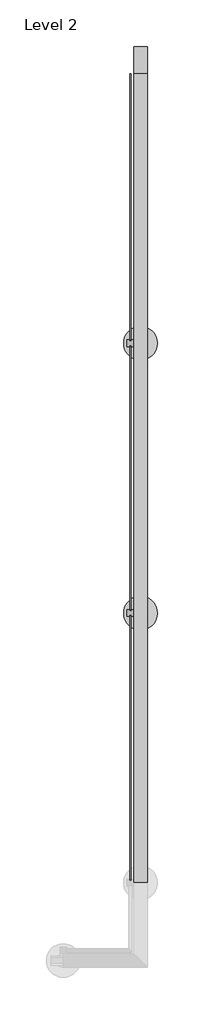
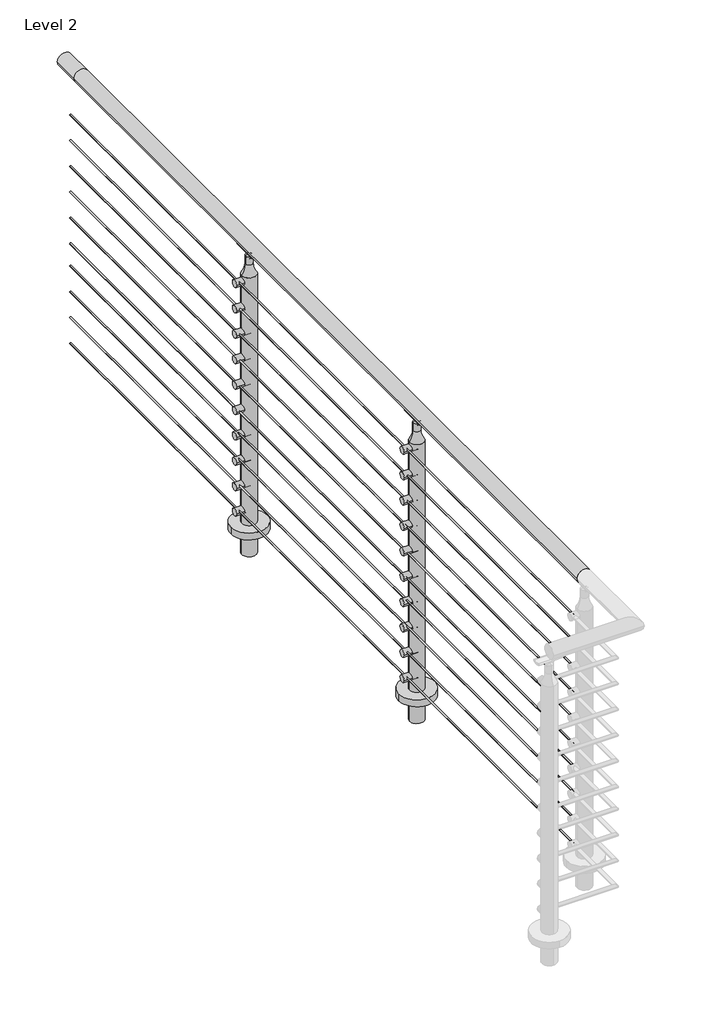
# One storey, part 9 of 21: 1 railing.
"""IFC4 building model written with IfcOpenShell, lengths in millimetres."""

from ifc_helpers import new_model, si_unit, point, frame, frame_2d, origin, place, context, project, spatial, polyline, circle_curve, ellipse_curve, trimmed, segment, composite_curve, outline, extrude, element, save
from ifc_brep_helpers import plane_surface, cylinder_surface, revolved_surface, advanced_brep

model = new_model("IFC4")

# Units and contexts
model_context = context("Model", 3, world=origin())
ifc_project = project(units=[si_unit("LENGTHUNIT", "METRE", prefix="MILLI")], contexts=[model_context])

# Site, building, storey
site = spatial("IfcSite", under=ifc_project)
building = spatial("IfcBuilding", under=site)
storey = spatial("IfcBuildingStorey", under=building, Name="Level 2", Elevation=3048.0)

# Railing
placement = place(None, origin())
element("IfcRailing", 1, ObjectType="VIVA-CIRCA-Multiline-Cable-Core Mount-Straight", at=placement, inside=storey, context=model_context, shape_type="SolidModel", body=[
    advanced_brep(
    [(71120.6810647, -68412.8034511, 4102.1), (71069.8810647, -68412.8034511, 4102.1), (71120.6810647, -65364.8034511, 4102.1), (71069.8810647, -65364.8034511, 4102.1), (71120.6810647, -65263.2034511, 4102.1), (71069.8810647, -65263.2034511, 4102.1)],
    [
        (0, 1, circle_curve(frame((71095.2810647, -68412.8034511, 4102.1), z_axis=(0.0, -1.0, 0.0), x_axis=(-1.0, 0.0, 0.0)), 25.4)),
        (1, 0, circle_curve(frame((71095.2810647, -68412.8034511, 4102.1), z_axis=(0.0, -1.0, 0.0), x_axis=(-1.0, 0.0, 0.0)), 25.4)),
        (0, 2),
        (2, 3, circle_curve(frame((71095.2810647, -65364.8034511, 4102.1), z_axis=(0.0, -1.0, 0.0), x_axis=(-1.0, 0.0, 0.0)), 25.4)),
        (3, 1),
        (3, 2, circle_curve(frame((71095.2810647, -65364.8034511, 4102.1), z_axis=(0.0, -1.0, 0.0), x_axis=(-1.0, 0.0, 0.0)), 25.4)),
        (4, 5, circle_curve(frame((71095.2810647, -65263.2034511, 4102.1), z_axis=(0.0, 1.0, 0.0), x_axis=(-1.0, 0.0, 0.0)), 25.4)),
        (5, 4, circle_curve(frame((71095.2810647, -65263.2034511, 4102.1), z_axis=(0.0, 1.0, 0.0), x_axis=(-1.0, 0.0, 0.0)), 25.4)),
        (2, 4),
        (5, 3),
    ],
    [
        plane_surface(frame((71095.2810647, -68412.8034511, 4127.5), z_axis=(0.0, -1.0, 0.0), x_axis=(0.0, 0.0, 1.0))),
        cylinder_surface(frame((71095.2810647, -68412.8034511, 4102.1), z_axis=(0.0, -1.0, 0.0), x_axis=(-1.0, 0.0, 0.0)), 25.4),
        plane_surface(frame((71095.2810647, -65263.2034511, 4127.5), z_axis=(0.0, 1.0, 0.0), x_axis=(0.0, 0.0, 1.0))),
        cylinder_surface(frame((71095.2810647, -65364.8034511, 4102.1), z_axis=(0.0, -1.0, 0.0), x_axis=(-1.0, 0.0, 0.0)), 25.4),
    ],
    [
        (0, [[1, 2]]),
        (1, [[-1, 3, 4, 5]]),
        (1, [[-2, -5, 6, -3]]),
        (2, [[7, 8]]),
        (3, [[-4, 9, -8, 10]]),
        (3, [[-6, -10, -7, -9]]),
    ],
),
    extrude(outline(composite_curve([segment(trimmed(circle_curve(frame_2d((3972.7124, 71057.1810647)), 2.3876), [point((3972.7124, 71054.7934647))], [point((3972.7124, 71059.5686647))], False, "CARTESIAN"), True, "CONTINUOUS"), segment(trimmed(circle_curve(frame_2d((3972.7124, 71057.1810647)), 2.3876), [point((3972.7124, 71059.5686647))], [point((3972.7124, 71054.7934647))], False, "CARTESIAN"), True, "CONTINUOUS")], self_intersect=False)), frame((0.0, -68412.8034511, 0.0), z_axis=(0.0, 1.0, 0.0), x_axis=(0.0, 0.0, 1.0)), (0.0, 0.0, 1.0), 3048.0),
    extrude(outline(composite_curve([segment(trimmed(circle_curve(frame_2d((3877.4624, 71057.1810647)), 2.3876), [point((3877.4624, 71054.7934647))], [point((3877.4624, 71059.5686647))], False, "CARTESIAN"), True, "CONTINUOUS"), segment(trimmed(circle_curve(frame_2d((3877.4624, 71057.1810647)), 2.3876), [point((3877.4624, 71059.5686647))], [point((3877.4624, 71054.7934647))], False, "CARTESIAN"), True, "CONTINUOUS")], self_intersect=False)), frame((0.0, -68412.8034511, 0.0), z_axis=(0.0, 1.0, 0.0), x_axis=(0.0, 0.0, 1.0)), (0.0, 0.0, 1.0), 3048.0),
    extrude(outline(composite_curve([segment(trimmed(circle_curve(frame_2d((3782.2124, 71057.1810647)), 2.3876), [point((3782.2124, 71054.7934647))], [point((3782.2124, 71059.5686647))], False, "CARTESIAN"), True, "CONTINUOUS"), segment(trimmed(circle_curve(frame_2d((3782.2124, 71057.1810647)), 2.3876), [point((3782.2124, 71059.5686647))], [point((3782.2124, 71054.7934647))], False, "CARTESIAN"), True, "CONTINUOUS")], self_intersect=False)), frame((0.0, -68412.8034511, 0.0), z_axis=(0.0, 1.0, 0.0), x_axis=(0.0, 0.0, 1.0)), (0.0, 0.0, 1.0), 3048.0),
    extrude(outline(composite_curve([segment(trimmed(circle_curve(frame_2d((3686.9624, 71057.1810647)), 2.3876), [point((3686.9624, 71054.7934647))], [point((3686.9624, 71059.5686647))], False, "CARTESIAN"), True, "CONTINUOUS"), segment(trimmed(circle_curve(frame_2d((3686.9624, 71057.1810647)), 2.3876), [point((3686.9624, 71059.5686647))], [point((3686.9624, 71054.7934647))], False, "CARTESIAN"), True, "CONTINUOUS")], self_intersect=False)), frame((0.0, -68412.8034511, 0.0), z_axis=(0.0, 1.0, 0.0), x_axis=(0.0, 0.0, 1.0)), (0.0, 0.0, 1.0), 3048.0),
    extrude(outline(composite_curve([segment(trimmed(circle_curve(frame_2d((3591.7124, 71057.1810647)), 2.3876), [point((3591.7124, 71054.7934647))], [point((3591.7124, 71059.5686647))], False, "CARTESIAN"), True, "CONTINUOUS"), segment(trimmed(circle_curve(frame_2d((3591.7124, 71057.1810647)), 2.3876), [point((3591.7124, 71059.5686647))], [point((3591.7124, 71054.7934647))], False, "CARTESIAN"), True, "CONTINUOUS")], self_intersect=False)), frame((0.0, -68412.8034511, 0.0), z_axis=(0.0, 1.0, 0.0), x_axis=(0.0, 0.0, 1.0)), (0.0, 0.0, 1.0), 3048.0),
    extrude(outline(composite_curve([segment(trimmed(circle_curve(frame_2d((3496.4624, 71057.1810647)), 2.3876), [point((3496.4624, 71054.7934647))], [point((3496.4624, 71059.5686647))], False, "CARTESIAN"), True, "CONTINUOUS"), segment(trimmed(circle_curve(frame_2d((3496.4624, 71057.1810647)), 2.3876), [point((3496.4624, 71059.5686647))], [point((3496.4624, 71054.7934647))], False, "CARTESIAN"), True, "CONTINUOUS")], self_intersect=False)), frame((0.0, -68412.8034511, 0.0), z_axis=(0.0, 1.0, 0.0), x_axis=(0.0, 0.0, 1.0)), (0.0, 0.0, 1.0), 3048.0),
    extrude(outline(composite_curve([segment(trimmed(circle_curve(frame_2d((3413.9124, 71057.1810647)), 2.3876), [point((3413.9124, 71054.7934647))], [point((3413.9124, 71059.5686647))], False, "CARTESIAN"), True, "CONTINUOUS"), segment(trimmed(circle_curve(frame_2d((3413.9124, 71057.1810647)), 2.3876), [point((3413.9124, 71059.5686647))], [point((3413.9124, 71054.7934647))], False, "CARTESIAN"), True, "CONTINUOUS")], self_intersect=False)), frame((0.0, -68412.8034511, 0.0), z_axis=(0.0, 1.0, 0.0), x_axis=(0.0, 0.0, 1.0)), (0.0, 0.0, 1.0), 3048.0),
    extrude(outline(composite_curve([segment(trimmed(circle_curve(frame_2d((3318.6624, 71057.1810647)), 2.3876), [point((3318.6624, 71054.7934647))], [point((3318.6624, 71059.5686647))], False, "CARTESIAN"), True, "CONTINUOUS"), segment(trimmed(circle_curve(frame_2d((3318.6624, 71057.1810647)), 2.3876), [point((3318.6624, 71059.5686647))], [point((3318.6624, 71054.7934647))], False, "CARTESIAN"), True, "CONTINUOUS")], self_intersect=False)), frame((0.0, -68412.8034511, 0.0), z_axis=(0.0, 1.0, 0.0), x_axis=(0.0, 0.0, 1.0)), (0.0, 0.0, 1.0), 3048.0),
    extrude(outline(composite_curve([segment(trimmed(circle_curve(frame_2d((3223.4124, 71057.1810647)), 2.3876), [point((3223.4124, 71054.7934647))], [point((3223.4124, 71059.5686647))], False, "CARTESIAN"), True, "CONTINUOUS"), segment(trimmed(circle_curve(frame_2d((3223.4124, 71057.1810647)), 2.3876), [point((3223.4124, 71059.5686647))], [point((3223.4124, 71054.7934647))], False, "CARTESIAN"), True, "CONTINUOUS")], self_intersect=False)), frame((0.0, -68412.8034511, 0.0), z_axis=(0.0, 1.0, 0.0), x_axis=(0.0, 0.0, 1.0)), (0.0, 0.0, 1.0), 3048.0),
    extrude(outline(composite_curve([segment(trimmed(circle_curve(frame_2d((3128.1624, 71057.1810647)), 2.3876), [point((3128.1624, 71054.7934647))], [point((3128.1624, 71059.5686647))], False, "CARTESIAN"), True, "CONTINUOUS"), segment(trimmed(circle_curve(frame_2d((3128.1624, 71057.1810647)), 2.3876), [point((3128.1624, 71059.5686647))], [point((3128.1624, 71054.7934647))], False, "CARTESIAN"), True, "CONTINUOUS")], self_intersect=False)), frame((0.0, -68412.8034511, 0.0), z_axis=(0.0, 1.0, 0.0), x_axis=(0.0, 0.0, 1.0)), (0.0, 0.0, 1.0), 3048.0),
    extrude(outline(composite_curve([segment(trimmed(circle_curve(frame_2d((71095.2810647, -66380.4065761)), 63.5), [point((71158.7810647, -66380.4065761))], [point((71031.7810647, -66380.4065761))], False, "CARTESIAN"), True, "CONTINUOUS"), segment(trimmed(circle_curve(frame_2d((71095.2810647, -66380.4065761)), 63.5), [point((71031.7810647, -66380.4065761))], [point((71158.7810647, -66380.4065761))], False, "CARTESIAN"), True, "CONTINUOUS")], self_intersect=False)), frame((0.0, 0.0, 3048.0), z_axis=(0.0, 0.0, 1.0), x_axis=(1.0, 0.0, 0.0)), (0.0, 0.0, 1.0), 25.4),
    extrude(outline(composite_curve([segment(trimmed(circle_curve(frame_2d((-66380.0097011, 3124.2)), 12.666458), [point((-66367.3432432, 3124.2))], [point((-66392.6761591, 3124.2))], False, "CARTESIAN"), True, "CONTINUOUS"), segment(trimmed(circle_curve(frame_2d((-66380.0097011, 3124.2)), 12.666458), [point((-66392.6761591, 3124.2))], [point((-66367.3432432, 3124.2))], False, "CARTESIAN"), True, "CONTINUOUS")], self_intersect=False)), frame((71044.4810647, 0.0, 0.0), z_axis=(1.0, 0.0, 0.0), x_axis=(0.0, 1.0, 0.0)), (0.0, 0.0, 1.0), 50.8),
    extrude(outline(composite_curve([segment(trimmed(circle_curve(frame_2d((-66380.0097011, 3218.0388889)), 12.666458), [point((-66367.3432432, 3218.0388889))], [point((-66392.6761591, 3218.0388889))], False, "CARTESIAN"), True, "CONTINUOUS"), segment(trimmed(circle_curve(frame_2d((-66380.0097011, 3218.0388889)), 12.666458), [point((-66392.6761591, 3218.0388889))], [point((-66367.3432432, 3218.0388889))], False, "CARTESIAN"), True, "CONTINUOUS")], self_intersect=False)), frame((71044.4810647, 0.0, 0.0), z_axis=(1.0, 0.0, 0.0), x_axis=(0.0, 1.0, 0.0)), (0.0, 0.0, 1.0), 50.8),
    extrude(outline(composite_curve([segment(trimmed(circle_curve(frame_2d((-66380.0097011, 3311.8777778)), 12.666458), [point((-66367.3432432, 3311.8777778))], [point((-66392.6761591, 3311.8777778))], False, "CARTESIAN"), True, "CONTINUOUS"), segment(trimmed(circle_curve(frame_2d((-66380.0097011, 3311.8777778)), 12.666458), [point((-66392.6761591, 3311.8777778))], [point((-66367.3432432, 3311.8777778))], False, "CARTESIAN"), True, "CONTINUOUS")], self_intersect=False)), frame((71044.4810647, 0.0, 0.0), z_axis=(1.0, 0.0, 0.0), x_axis=(0.0, 1.0, 0.0)), (0.0, 0.0, 1.0), 50.8),
    extrude(outline(composite_curve([segment(trimmed(circle_curve(frame_2d((-66380.0097011, 3405.7166667)), 12.666458), [point((-66367.3432432, 3405.7166667))], [point((-66392.6761591, 3405.7166667))], False, "CARTESIAN"), True, "CONTINUOUS"), segment(trimmed(circle_curve(frame_2d((-66380.0097011, 3405.7166667)), 12.666458), [point((-66392.6761591, 3405.7166667))], [point((-66367.3432432, 3405.7166667))], False, "CARTESIAN"), True, "CONTINUOUS")], self_intersect=False)), frame((71044.4810647, 0.0, 0.0), z_axis=(1.0, 0.0, 0.0), x_axis=(0.0, 1.0, 0.0)), (0.0, 0.0, 1.0), 50.8),
    extrude(outline(composite_curve([segment(trimmed(circle_curve(frame_2d((-66380.0097011, 3499.5555556)), 12.666458), [point((-66367.3432432, 3499.5555556))], [point((-66392.6761591, 3499.5555556))], False, "CARTESIAN"), True, "CONTINUOUS"), segment(trimmed(circle_curve(frame_2d((-66380.0097011, 3499.5555556)), 12.666458), [point((-66392.6761591, 3499.5555556))], [point((-66367.3432432, 3499.5555556))], False, "CARTESIAN"), True, "CONTINUOUS")], self_intersect=False)), frame((71044.4810647, 0.0, 0.0), z_axis=(1.0, 0.0, 0.0), x_axis=(0.0, 1.0, 0.0)), (0.0, 0.0, 1.0), 50.8),
    extrude(outline(composite_curve([segment(trimmed(circle_curve(frame_2d((-66380.0097011, 3593.3944444)), 12.666458), [point((-66367.3432432, 3593.3944444))], [point((-66392.6761591, 3593.3944444))], False, "CARTESIAN"), True, "CONTINUOUS"), segment(trimmed(circle_curve(frame_2d((-66380.0097011, 3593.3944444)), 12.666458), [point((-66392.6761591, 3593.3944444))], [point((-66367.3432432, 3593.3944444))], False, "CARTESIAN"), True, "CONTINUOUS")], self_intersect=False)), frame((71044.4810647, 0.0, 0.0), z_axis=(1.0, 0.0, 0.0), x_axis=(0.0, 1.0, 0.0)), (0.0, 0.0, 1.0), 50.8),
    extrude(outline(composite_curve([segment(trimmed(circle_curve(frame_2d((-66380.0097011, 3687.2333333)), 12.666458), [point((-66367.3432432, 3687.2333333))], [point((-66392.6761591, 3687.2333333))], False, "CARTESIAN"), True, "CONTINUOUS"), segment(trimmed(circle_curve(frame_2d((-66380.0097011, 3687.2333333)), 12.666458), [point((-66392.6761591, 3687.2333333))], [point((-66367.3432432, 3687.2333333))], False, "CARTESIAN"), True, "CONTINUOUS")], self_intersect=False)), frame((71044.4810647, 0.0, 0.0), z_axis=(1.0, 0.0, 0.0), x_axis=(0.0, 1.0, 0.0)), (0.0, 0.0, 1.0), 50.8),
    extrude(outline(composite_curve([segment(trimmed(circle_curve(frame_2d((-66380.0097011, 3781.0722222)), 12.666458), [point((-66367.3432432, 3781.0722222))], [point((-66392.6761591, 3781.0722222))], False, "CARTESIAN"), True, "CONTINUOUS"), segment(trimmed(circle_curve(frame_2d((-66380.0097011, 3781.0722222)), 12.666458), [point((-66392.6761591, 3781.0722222))], [point((-66367.3432432, 3781.0722222))], False, "CARTESIAN"), True, "CONTINUOUS")], self_intersect=False)), frame((71044.4810647, 0.0, 0.0), z_axis=(1.0, 0.0, 0.0), x_axis=(0.0, 1.0, 0.0)), (0.0, 0.0, 1.0), 50.8),
    extrude(outline(composite_curve([segment(trimmed(circle_curve(frame_2d((-66380.0097011, 3968.75)), 12.666458), [point((-66367.3432432, 3968.75))], [point((-66392.6761591, 3968.75))], False, "CARTESIAN"), True, "CONTINUOUS"), segment(trimmed(circle_curve(frame_2d((-66380.0097011, 3968.75)), 12.666458), [point((-66392.6761591, 3968.75))], [point((-66367.3432432, 3968.75))], False, "CARTESIAN"), True, "CONTINUOUS")], self_intersect=False)), frame((71044.4810647, 0.0, 0.0), z_axis=(1.0, 0.0, 0.0), x_axis=(0.0, 1.0, 0.0)), (0.0, 0.0, 1.0), 50.8),
    extrude(outline(composite_curve([segment(trimmed(circle_curve(frame_2d((-66380.0097011, 3874.9111111)), 12.666458), [point((-66367.3432432, 3874.9111111))], [point((-66392.6761591, 3874.9111111))], False, "CARTESIAN"), True, "CONTINUOUS"), segment(trimmed(circle_curve(frame_2d((-66380.0097011, 3874.9111111)), 12.666458), [point((-66392.6761591, 3874.9111111))], [point((-66367.3432432, 3874.9111111))], False, "CARTESIAN"), True, "CONTINUOUS")], self_intersect=False)), frame((71044.4810647, 0.0, 0.0), z_axis=(1.0, 0.0, 0.0), x_axis=(0.0, 1.0, 0.0)), (0.0, 0.0, 1.0), 50.8),
    extrude(outline(composite_curve([segment(trimmed(circle_curve(frame_2d((4103.4254922, 71095.1843364)), 25.4345159), [point((4081.3106679, 71107.7481393))], [point((4081.2157471, 71082.7891026))], True, "CARTESIAN"), True, "CONTINUOUS"), segment(trimmed(circle_curve(frame_2d((4078.7132623, 71081.5444495)), 2.7949225), [point((4081.2157471, 71082.7891026))], [point((4076.3406769, 71080.0671444))], False, "CARTESIAN"), True, "CONTINUOUS"), segment(trimmed(circle_curve(frame_2d((4104.1881188, 71095.3177994)), 31.75), [point((4076.3406769, 71080.0671444))], [point((4076.9214354, 71111.5840367))], False, "CARTESIAN"), True, "CONTINUOUS"), segment(trimmed(circle_curve(frame_2d((4078.7923545, 71109.2956969)), 2.9558141), [point((4076.9214354, 71111.5840367))], [point((4081.3106679, 71107.7481393))], False, "CARTESIAN"), True, "CONTINUOUS")], self_intersect=False)), frame((0.0, -66425.6439761, 0.0), z_axis=(0.0, 1.0, 0.0), x_axis=(0.0, 0.0, 1.0)), (0.0, 0.0, 1.0), 90.4748),
    advanced_brep(
    [(71092.7410647, -66353.3386612, 4072.6506908), (71092.7410647, -66367.7065761, 4058.282776), (71092.7410647, -66393.1065761, 4058.282776), (71092.7410647, -66407.474491, 4072.6506908), (71097.8210647, -66353.3386612, 4072.6506908), (71097.8210647, -66407.474491, 4072.6506908), (71097.8210647, -66393.1065761, 4058.282776), (71097.8210647, -66367.7065761, 4058.282776)],
    [
        (0, 1, circle_curve(frame((71092.7410647, -66353.3386612, 4058.282776), z_axis=(1.0, 0.0, 0.0), x_axis=(0.0, -1.0, 0.0)), 14.3679149)),
        (1, 2, circle_curve(frame((71092.7410647, -66380.4065761, 4058.282776), z_axis=(-1.0, 0.0, 0.0), x_axis=(0.0, -1.0, 0.0)), 12.7)),
        (2, 3, circle_curve(frame((71092.7410647, -66407.474491, 4058.282776), z_axis=(1.0, 0.0, 0.0), x_axis=(0.0, -1.0, 0.0)), 14.3679149)),
        (3, 0),
        (4, 5),
        (5, 6, circle_curve(frame((71097.8210647, -66407.474491, 4058.282776), z_axis=(-1.0, 0.0, 0.0), x_axis=(0.0, -1.0, 0.0)), 14.3679149)),
        (6, 7, circle_curve(frame((71097.8210647, -66380.4065761, 4058.282776), z_axis=(1.0, 0.0, 0.0), x_axis=(0.0, -1.0, 0.0)), 12.7)),
        (7, 4, circle_curve(frame((71097.8210647, -66353.3386612, 4058.282776), z_axis=(-1.0, 0.0, 0.0), x_axis=(0.0, -1.0, 0.0)), 14.3679149)),
        (0, 4),
        (7, 1),
        (6, 2),
        (5, 3),
    ],
    [
        plane_surface(frame((71092.7410647, -66367.7065761, 4058.282776), z_axis=(-1.0, 0.0, 0.0), x_axis=(0.0, 0.0, -1.0))),
        plane_surface(frame((71097.8210647, -66367.7065761, 4058.282776), z_axis=(1.0, 0.0, 0.0), x_axis=(0.0, 0.0, 1.0))),
        revolved_surface(polyline([(71097.8210647, -66367.7065761, 4058.282776), (71092.7410647, -66367.7065761, 4058.282776)]), (71097.8210647, -66353.3386612, 4058.282776), (1.0, 0.0, 0.0)),
        cylinder_surface(frame((71097.8210647, -66380.4065761, 4058.282776), z_axis=(-1.0, 0.0, 0.0), x_axis=(0.0, -1.0, 0.0)), 12.7),
        revolved_surface(polyline([(71097.8210647, -66421.8424059, 4058.282776), (71092.7410647, -66421.8424059, 4058.282776)]), (71097.8210647, -66407.474491, 4058.282776), (1.0, 0.0, 0.0)),
        plane_surface(frame((71092.7410647, -66407.474491, 4072.6506908), z_axis=(0.0, 0.0, 1.0), x_axis=(1.0, 0.0, 0.0))),
    ],
    [
        (0, [[1, 2, 3, 4]]),
        (1, [[5, 6, 7, 8]]),
        (2, [[-1, 9, -8, 10]]),
        (3, [[-2, -10, -7, 11]]),
        (4, [[-3, -11, -6, 12]]),
        (5, [[-4, -12, -5, -9]]),
    ],
),
    advanced_brep(
    [(71120.6804625, -66380.4065761, 3989.1347854), (71069.8816669, -66380.4065761, 3989.1347854), (71069.8816669, -66380.4065761, 2959.1), (71120.6804625, -66380.4065761, 2959.1), (71108.0190333, -66380.4065761, 4027.3486202), (71082.5430962, -66380.4065761, 4027.3486202), (71108.0190333, -66380.4065761, 4056.5779599), (71082.5430962, -66380.4065761, 4056.5779599), (71095.2810647, -66380.4065761, 4063.238668), (71095.2810647, -66380.4065761, 2959.1)],
    [
        (0, 1, circle_curve(frame((71095.2810647, -66380.4065761, 3989.1347854), z_axis=(0.0, 0.0, -1.0), x_axis=(-1.0, 0.0, 0.0)), 25.3993978)),
        (1, 2),
        (2, 3, circle_curve(frame((71095.2810647, -66380.4065761, 2959.1), z_axis=(0.0, 0.0, 1.0), x_axis=(-1.0, 0.0, 0.0)), 25.3993978)),
        (3, 0),
        (1, 0, circle_curve(frame((71095.2810647, -66380.4065761, 3989.1347854), z_axis=(0.0, 0.0, -1.0), x_axis=(-1.0, 0.0, 0.0)), 25.3993978)),
        (3, 2, circle_curve(frame((71095.2810647, -66380.4065761, 2959.1), z_axis=(0.0, 0.0, 1.0), x_axis=(-1.0, 0.0, 0.0)), 25.3993978)),
        (4, 5, circle_curve(frame((71095.2810647, -66380.4065761, 4027.3486202), z_axis=(0.0, 0.0, -1.0), x_axis=(-1.0, 0.0, 0.0)), 12.7379685)),
        (5, 1, circle_curve(frame((71018.5452279, -66380.4065761, 4027.3486202), z_axis=(0.0, 1.0, 0.0), x_axis=(-1.0, 0.0, 0.0)), 63.9978683)),
        (0, 4, circle_curve(frame((71172.0169016, -66380.4065761, 4027.3486202), z_axis=(0.0, 1.0, 0.0), x_axis=(1.0, 0.0, 0.0)), 63.9978683)),
        (5, 4, circle_curve(frame((71095.2810647, -66380.4065761, 4027.3486202), z_axis=(0.0, 0.0, -1.0), x_axis=(-1.0, 0.0, 0.0)), 12.7379685)),
        (6, 7, circle_curve(frame((71095.2810647, -66380.4065761, 4056.5779599), z_axis=(0.0, 0.0, -1.0), x_axis=(-1.0, 0.0, 0.0)), 12.7379685)),
        (7, 5),
        (4, 6),
        (7, 6, circle_curve(frame((71095.2810647, -66380.4065761, 4056.5779599), z_axis=(0.0, 0.0, -1.0), x_axis=(-1.0, 0.0, 0.0)), 12.7379685)),
        (8, 7, circle_curve(frame((71095.2810647, -66380.4065761, 4047.7282394), z_axis=(0.0, -1.0, 0.0), x_axis=(-1.0, 0.0, 0.0)), 15.5104286)),
        (6, 8, circle_curve(frame((71095.2810647, -66380.4065761, 4047.7282394), z_axis=(0.0, -1.0, 0.0), x_axis=(1.0, 0.0, 0.0)), 15.5104286)),
        (2, 9),
        (9, 3),
    ],
    [
        cylinder_surface(frame((71095.2810647, -66380.4065761, 4152.9), z_axis=(0.0, 0.0, 1.0), x_axis=(-1.0, 0.0, 0.0)), 25.3993978),
        revolved_surface(trimmed(ellipse_curve(frame((71018.5452279, -66380.4065761, 4027.3486202), z_axis=(0.0, -1.0, 0.0), x_axis=(-1.0, 0.0, 0.0)), 63.9978683, 63.9978683), [point((71069.8816669, -66380.4065761, 3989.1347854))], [point((71082.5430962, -66380.4065761, 4027.3486202))], True, "CARTESIAN"), (71095.2810647, -66380.4065761, 4152.9), (0.0, 0.0, 1.0)),
        cylinder_surface(frame((71095.2810647, -66380.4065761, 4152.9), z_axis=(0.0, 0.0, 1.0), x_axis=(-1.0, 0.0, 0.0)), 12.7379685),
        revolved_surface(trimmed(ellipse_curve(frame((71095.2810647, -66380.4065761, 4047.7282394), z_axis=(0.0, 1.0, 0.0), x_axis=(-1.0, 0.0, 0.0)), 15.5104286, 15.5104286), [point((71082.5430962, -66380.4065761, 4056.5779599))], [point((71095.2810647, -66380.4065761, 4063.238668))], True, "CARTESIAN"), (71095.2810647, -66380.4065761, 4152.9), (0.0, 0.0, 1.0)),
        plane_surface(frame((71095.2810647, -66380.4065761, 2959.1), z_axis=(0.0, 0.0, -1.0), x_axis=(-1.0, 0.0, 0.0))),
    ],
    [
        (0, [[1, 2, 3, 4]]),
        (0, [[5, -4, 6, -2]]),
        (1, [[7, 8, -1, 9]]),
        (1, [[10, -9, -5, -8]]),
        (2, [[11, 12, -7, 13]]),
        (2, [[14, -13, -10, -12]]),
        (3, [[15, -11, 16]]),
        (3, [[-16, -14, -15]]),
        (4, [[-3, 17, 18]]),
        (4, [[-6, -18, -17]]),
    ],
),
    extrude(outline(composite_curve([segment(trimmed(circle_curve(frame_2d((71095.2810647, -67396.4065761)), 63.5), [point((71158.7810647, -67396.4065761))], [point((71031.7810647, -67396.4065761))], False, "CARTESIAN"), True, "CONTINUOUS"), segment(trimmed(circle_curve(frame_2d((71095.2810647, -67396.4065761)), 63.5), [point((71031.7810647, -67396.4065761))], [point((71158.7810647, -67396.4065761))], False, "CARTESIAN"), True, "CONTINUOUS")], self_intersect=False)), frame((0.0, 0.0, 3048.0), z_axis=(0.0, 0.0, 1.0), x_axis=(1.0, 0.0, 0.0)), (0.0, 0.0, 1.0), 25.4),
    extrude(outline(composite_curve([segment(trimmed(circle_curve(frame_2d((-67396.0097011, 3124.2)), 12.666458), [point((-67383.3432432, 3124.2))], [point((-67408.6761591, 3124.2))], False, "CARTESIAN"), True, "CONTINUOUS"), segment(trimmed(circle_curve(frame_2d((-67396.0097011, 3124.2)), 12.666458), [point((-67408.6761591, 3124.2))], [point((-67383.3432432, 3124.2))], False, "CARTESIAN"), True, "CONTINUOUS")], self_intersect=False)), frame((71044.4810647, 0.0, 0.0), z_axis=(1.0, 0.0, 0.0), x_axis=(0.0, 1.0, 0.0)), (0.0, 0.0, 1.0), 50.8),
    extrude(outline(composite_curve([segment(trimmed(circle_curve(frame_2d((-67396.0097011, 3218.0388889)), 12.666458), [point((-67383.3432432, 3218.0388889))], [point((-67408.6761591, 3218.0388889))], False, "CARTESIAN"), True, "CONTINUOUS"), segment(trimmed(circle_curve(frame_2d((-67396.0097011, 3218.0388889)), 12.666458), [point((-67408.6761591, 3218.0388889))], [point((-67383.3432432, 3218.0388889))], False, "CARTESIAN"), True, "CONTINUOUS")], self_intersect=False)), frame((71044.4810647, 0.0, 0.0), z_axis=(1.0, 0.0, 0.0), x_axis=(0.0, 1.0, 0.0)), (0.0, 0.0, 1.0), 50.8),
    extrude(outline(composite_curve([segment(trimmed(circle_curve(frame_2d((-67396.0097011, 3311.8777778)), 12.666458), [point((-67383.3432432, 3311.8777778))], [point((-67408.6761591, 3311.8777778))], False, "CARTESIAN"), True, "CONTINUOUS"), segment(trimmed(circle_curve(frame_2d((-67396.0097011, 3311.8777778)), 12.666458), [point((-67408.6761591, 3311.8777778))], [point((-67383.3432432, 3311.8777778))], False, "CARTESIAN"), True, "CONTINUOUS")], self_intersect=False)), frame((71044.4810647, 0.0, 0.0), z_axis=(1.0, 0.0, 0.0), x_axis=(0.0, 1.0, 0.0)), (0.0, 0.0, 1.0), 50.8),
    extrude(outline(composite_curve([segment(trimmed(circle_curve(frame_2d((-67396.0097011, 3405.7166667)), 12.666458), [point((-67383.3432432, 3405.7166667))], [point((-67408.6761591, 3405.7166667))], False, "CARTESIAN"), True, "CONTINUOUS"), segment(trimmed(circle_curve(frame_2d((-67396.0097011, 3405.7166667)), 12.666458), [point((-67408.6761591, 3405.7166667))], [point((-67383.3432432, 3405.7166667))], False, "CARTESIAN"), True, "CONTINUOUS")], self_intersect=False)), frame((71044.4810647, 0.0, 0.0), z_axis=(1.0, 0.0, 0.0), x_axis=(0.0, 1.0, 0.0)), (0.0, 0.0, 1.0), 50.8),
    extrude(outline(composite_curve([segment(trimmed(circle_curve(frame_2d((-67396.0097011, 3499.5555556)), 12.666458), [point((-67383.3432432, 3499.5555556))], [point((-67408.6761591, 3499.5555556))], False, "CARTESIAN"), True, "CONTINUOUS"), segment(trimmed(circle_curve(frame_2d((-67396.0097011, 3499.5555556)), 12.666458), [point((-67408.6761591, 3499.5555556))], [point((-67383.3432432, 3499.5555556))], False, "CARTESIAN"), True, "CONTINUOUS")], self_intersect=False)), frame((71044.4810647, 0.0, 0.0), z_axis=(1.0, 0.0, 0.0), x_axis=(0.0, 1.0, 0.0)), (0.0, 0.0, 1.0), 50.8),
    extrude(outline(composite_curve([segment(trimmed(circle_curve(frame_2d((-67396.0097011, 3593.3944444)), 12.666458), [point((-67383.3432432, 3593.3944444))], [point((-67408.6761591, 3593.3944444))], False, "CARTESIAN"), True, "CONTINUOUS"), segment(trimmed(circle_curve(frame_2d((-67396.0097011, 3593.3944444)), 12.666458), [point((-67408.6761591, 3593.3944444))], [point((-67383.3432432, 3593.3944444))], False, "CARTESIAN"), True, "CONTINUOUS")], self_intersect=False)), frame((71044.4810647, 0.0, 0.0), z_axis=(1.0, 0.0, 0.0), x_axis=(0.0, 1.0, 0.0)), (0.0, 0.0, 1.0), 50.8),
    extrude(outline(composite_curve([segment(trimmed(circle_curve(frame_2d((-67396.0097011, 3687.2333333)), 12.666458), [point((-67383.3432432, 3687.2333333))], [point((-67408.6761591, 3687.2333333))], False, "CARTESIAN"), True, "CONTINUOUS"), segment(trimmed(circle_curve(frame_2d((-67396.0097011, 3687.2333333)), 12.666458), [point((-67408.6761591, 3687.2333333))], [point((-67383.3432432, 3687.2333333))], False, "CARTESIAN"), True, "CONTINUOUS")], self_intersect=False)), frame((71044.4810647, 0.0, 0.0), z_axis=(1.0, 0.0, 0.0), x_axis=(0.0, 1.0, 0.0)), (0.0, 0.0, 1.0), 50.8),
    extrude(outline(composite_curve([segment(trimmed(circle_curve(frame_2d((-67396.0097011, 3781.0722222)), 12.666458), [point((-67383.3432432, 3781.0722222))], [point((-67408.6761591, 3781.0722222))], False, "CARTESIAN"), True, "CONTINUOUS"), segment(trimmed(circle_curve(frame_2d((-67396.0097011, 3781.0722222)), 12.666458), [point((-67408.6761591, 3781.0722222))], [point((-67383.3432432, 3781.0722222))], False, "CARTESIAN"), True, "CONTINUOUS")], self_intersect=False)), frame((71044.4810647, 0.0, 0.0), z_axis=(1.0, 0.0, 0.0), x_axis=(0.0, 1.0, 0.0)), (0.0, 0.0, 1.0), 50.8),
    extrude(outline(composite_curve([segment(trimmed(circle_curve(frame_2d((-67396.0097011, 3968.75)), 12.666458), [point((-67383.3432432, 3968.75))], [point((-67408.6761591, 3968.75))], False, "CARTESIAN"), True, "CONTINUOUS"), segment(trimmed(circle_curve(frame_2d((-67396.0097011, 3968.75)), 12.666458), [point((-67408.6761591, 3968.75))], [point((-67383.3432432, 3968.75))], False, "CARTESIAN"), True, "CONTINUOUS")], self_intersect=False)), frame((71044.4810647, 0.0, 0.0), z_axis=(1.0, 0.0, 0.0), x_axis=(0.0, 1.0, 0.0)), (0.0, 0.0, 1.0), 50.8),
    extrude(outline(composite_curve([segment(trimmed(circle_curve(frame_2d((-67396.0097011, 3874.9111111)), 12.666458), [point((-67383.3432432, 3874.9111111))], [point((-67408.6761591, 3874.9111111))], False, "CARTESIAN"), True, "CONTINUOUS"), segment(trimmed(circle_curve(frame_2d((-67396.0097011, 3874.9111111)), 12.666458), [point((-67408.6761591, 3874.9111111))], [point((-67383.3432432, 3874.9111111))], False, "CARTESIAN"), True, "CONTINUOUS")], self_intersect=False)), frame((71044.4810647, 0.0, 0.0), z_axis=(1.0, 0.0, 0.0), x_axis=(0.0, 1.0, 0.0)), (0.0, 0.0, 1.0), 50.8),
    extrude(outline(composite_curve([segment(trimmed(circle_curve(frame_2d((4103.4254922, 71095.1843364)), 25.4345159), [point((4081.3106679, 71107.7481393))], [point((4081.2157471, 71082.7891026))], True, "CARTESIAN"), True, "CONTINUOUS"), segment(trimmed(circle_curve(frame_2d((4078.7132623, 71081.5444495)), 2.7949225), [point((4081.2157471, 71082.7891026))], [point((4076.3406769, 71080.0671444))], False, "CARTESIAN"), True, "CONTINUOUS"), segment(trimmed(circle_curve(frame_2d((4104.1881188, 71095.3177994)), 31.75), [point((4076.3406769, 71080.0671444))], [point((4076.9214354, 71111.5840367))], False, "CARTESIAN"), True, "CONTINUOUS"), segment(trimmed(circle_curve(frame_2d((4078.7923545, 71109.2956969)), 2.9558141), [point((4076.9214354, 71111.5840367))], [point((4081.3106679, 71107.7481393))], False, "CARTESIAN"), True, "CONTINUOUS")], self_intersect=False)), frame((0.0, -67441.6439761, 0.0), z_axis=(0.0, 1.0, 0.0), x_axis=(0.0, 0.0, 1.0)), (0.0, 0.0, 1.0), 90.4748),
    advanced_brep(
    [(71092.7410647, -67369.3386612, 4072.6506908), (71092.7410647, -67383.7065761, 4058.282776), (71092.7410647, -67409.1065761, 4058.282776), (71092.7410647, -67423.474491, 4072.6506908), (71097.8210647, -67369.3386612, 4072.6506908), (71097.8210647, -67423.474491, 4072.6506908), (71097.8210647, -67409.1065761, 4058.282776), (71097.8210647, -67383.7065761, 4058.282776)],
    [
        (0, 1, circle_curve(frame((71092.7410647, -67369.3386612, 4058.282776), z_axis=(1.0, 0.0, 0.0), x_axis=(0.0, -1.0, 0.0)), 14.3679149)),
        (1, 2, circle_curve(frame((71092.7410647, -67396.4065761, 4058.282776), z_axis=(-1.0, 0.0, 0.0), x_axis=(0.0, -1.0, 0.0)), 12.7)),
        (2, 3, circle_curve(frame((71092.7410647, -67423.474491, 4058.282776), z_axis=(1.0, 0.0, 0.0), x_axis=(0.0, -1.0, 0.0)), 14.3679149)),
        (3, 0),
        (4, 5),
        (5, 6, circle_curve(frame((71097.8210647, -67423.474491, 4058.282776), z_axis=(-1.0, 0.0, 0.0), x_axis=(0.0, -1.0, 0.0)), 14.3679149)),
        (6, 7, circle_curve(frame((71097.8210647, -67396.4065761, 4058.282776), z_axis=(1.0, 0.0, 0.0), x_axis=(0.0, -1.0, 0.0)), 12.7)),
        (7, 4, circle_curve(frame((71097.8210647, -67369.3386612, 4058.282776), z_axis=(-1.0, 0.0, 0.0), x_axis=(0.0, -1.0, 0.0)), 14.3679149)),
        (0, 4),
        (7, 1),
        (6, 2),
        (5, 3),
    ],
    [
        plane_surface(frame((71092.7410647, -67383.7065761, 4058.282776), z_axis=(-1.0, 0.0, 0.0), x_axis=(0.0, 0.0, -1.0))),
        plane_surface(frame((71097.8210647, -67383.7065761, 4058.282776), z_axis=(1.0, 0.0, 0.0), x_axis=(0.0, 0.0, 1.0))),
        revolved_surface(polyline([(71097.8210647, -67383.7065761, 4058.282776), (71092.7410647, -67383.7065761, 4058.282776)]), (71097.8210647, -67369.3386612, 4058.282776), (1.0, 0.0, 0.0)),
        cylinder_surface(frame((71097.8210647, -67396.4065761, 4058.282776), z_axis=(-1.0, 0.0, 0.0), x_axis=(0.0, -1.0, 0.0)), 12.7),
        revolved_surface(polyline([(71097.8210647, -67437.8424059, 4058.282776), (71092.7410647, -67437.8424059, 4058.282776)]), (71097.8210647, -67423.474491, 4058.282776), (1.0, 0.0, 0.0)),
        plane_surface(frame((71092.7410647, -67423.474491, 4072.6506908), z_axis=(0.0, 0.0, 1.0), x_axis=(1.0, 0.0, 0.0))),
    ],
    [
        (0, [[1, 2, 3, 4]]),
        (1, [[5, 6, 7, 8]]),
        (2, [[-1, 9, -8, 10]]),
        (3, [[-2, -10, -7, 11]]),
        (4, [[-3, -11, -6, 12]]),
        (5, [[-4, -12, -5, -9]]),
    ],
),
    advanced_brep(
    [(71120.6804625, -67396.4065761, 3989.1347854), (71069.8816669, -67396.4065761, 3989.1347854), (71069.8816669, -67396.4065761, 2959.1), (71120.6804625, -67396.4065761, 2959.1), (71108.0190333, -67396.4065761, 4027.3486202), (71082.5430962, -67396.4065761, 4027.3486202), (71108.0190333, -67396.4065761, 4056.5779599), (71082.5430962, -67396.4065761, 4056.5779599), (71095.2810647, -67396.4065761, 4063.238668), (71095.2810647, -67396.4065761, 2959.1)],
    [
        (0, 1, circle_curve(frame((71095.2810647, -67396.4065761, 3989.1347854), z_axis=(0.0, 0.0, -1.0), x_axis=(-1.0, 0.0, 0.0)), 25.3993978)),
        (1, 2),
        (2, 3, circle_curve(frame((71095.2810647, -67396.4065761, 2959.1), z_axis=(0.0, 0.0, 1.0), x_axis=(-1.0, 0.0, 0.0)), 25.3993978)),
        (3, 0),
        (1, 0, circle_curve(frame((71095.2810647, -67396.4065761, 3989.1347854), z_axis=(0.0, 0.0, -1.0), x_axis=(-1.0, 0.0, 0.0)), 25.3993978)),
        (3, 2, circle_curve(frame((71095.2810647, -67396.4065761, 2959.1), z_axis=(0.0, 0.0, 1.0), x_axis=(-1.0, 0.0, 0.0)), 25.3993978)),
        (4, 5, circle_curve(frame((71095.2810647, -67396.4065761, 4027.3486202), z_axis=(0.0, 0.0, -1.0), x_axis=(-1.0, 0.0, 0.0)), 12.7379685)),
        (5, 1, circle_curve(frame((71018.5452279, -67396.4065761, 4027.3486202), z_axis=(0.0, 1.0, 0.0), x_axis=(-1.0, 0.0, 0.0)), 63.9978683)),
        (0, 4, circle_curve(frame((71172.0169016, -67396.4065761, 4027.3486202), z_axis=(0.0, 1.0, 0.0), x_axis=(1.0, 0.0, 0.0)), 63.9978683)),
        (5, 4, circle_curve(frame((71095.2810647, -67396.4065761, 4027.3486202), z_axis=(0.0, 0.0, -1.0), x_axis=(-1.0, 0.0, 0.0)), 12.7379685)),
        (6, 7, circle_curve(frame((71095.2810647, -67396.4065761, 4056.5779599), z_axis=(0.0, 0.0, -1.0), x_axis=(-1.0, 0.0, 0.0)), 12.7379685)),
        (7, 5),
        (4, 6),
        (7, 6, circle_curve(frame((71095.2810647, -67396.4065761, 4056.5779599), z_axis=(0.0, 0.0, -1.0), x_axis=(-1.0, 0.0, 0.0)), 12.7379685)),
        (8, 7, circle_curve(frame((71095.2810647, -67396.4065761, 4047.7282394), z_axis=(0.0, -1.0, 0.0), x_axis=(-1.0, 0.0, 0.0)), 15.5104286)),
        (6, 8, circle_curve(frame((71095.2810647, -67396.4065761, 4047.7282394), z_axis=(0.0, -1.0, 0.0), x_axis=(1.0, 0.0, 0.0)), 15.5104286)),
        (2, 9),
        (9, 3),
    ],
    [
        cylinder_surface(frame((71095.2810647, -67396.4065761, 4152.9), z_axis=(0.0, 0.0, 1.0), x_axis=(-1.0, 0.0, 0.0)), 25.3993978),
        revolved_surface(trimmed(ellipse_curve(frame((71018.5452279, -67396.4065761, 4027.3486202), z_axis=(0.0, -1.0, 0.0), x_axis=(-1.0, 0.0, 0.0)), 63.9978683, 63.9978683), [point((71069.8816669, -67396.4065761, 3989.1347854))], [point((71082.5430962, -67396.4065761, 4027.3486202))], True, "CARTESIAN"), (71095.2810647, -67396.4065761, 4152.9), (0.0, 0.0, 1.0)),
        cylinder_surface(frame((71095.2810647, -67396.4065761, 4152.9), z_axis=(0.0, 0.0, 1.0), x_axis=(-1.0, 0.0, 0.0)), 12.7379685),
        revolved_surface(trimmed(ellipse_curve(frame((71095.2810647, -67396.4065761, 4047.7282394), z_axis=(0.0, 1.0, 0.0), x_axis=(-1.0, 0.0, 0.0)), 15.5104286, 15.5104286), [point((71082.5430962, -67396.4065761, 4056.5779599))], [point((71095.2810647, -67396.4065761, 4063.238668))], True, "CARTESIAN"), (71095.2810647, -67396.4065761, 4152.9), (0.0, 0.0, 1.0)),
        plane_surface(frame((71095.2810647, -67396.4065761, 2959.1), z_axis=(0.0, 0.0, -1.0), x_axis=(-1.0, 0.0, 0.0))),
    ],
    [
        (0, [[1, 2, 3, 4]]),
        (0, [[5, -4, 6, -2]]),
        (1, [[7, 8, -1, 9]]),
        (1, [[10, -9, -5, -8]]),
        (2, [[11, 12, -7, 13]]),
        (2, [[14, -13, -10, -12]]),
        (3, [[15, -11, 16]]),
        (3, [[-16, -14, -15]]),
        (4, [[-3, 17, 18]]),
        (4, [[-6, -18, -17]]),
    ],
),
])

save(model, "model.ifc")
